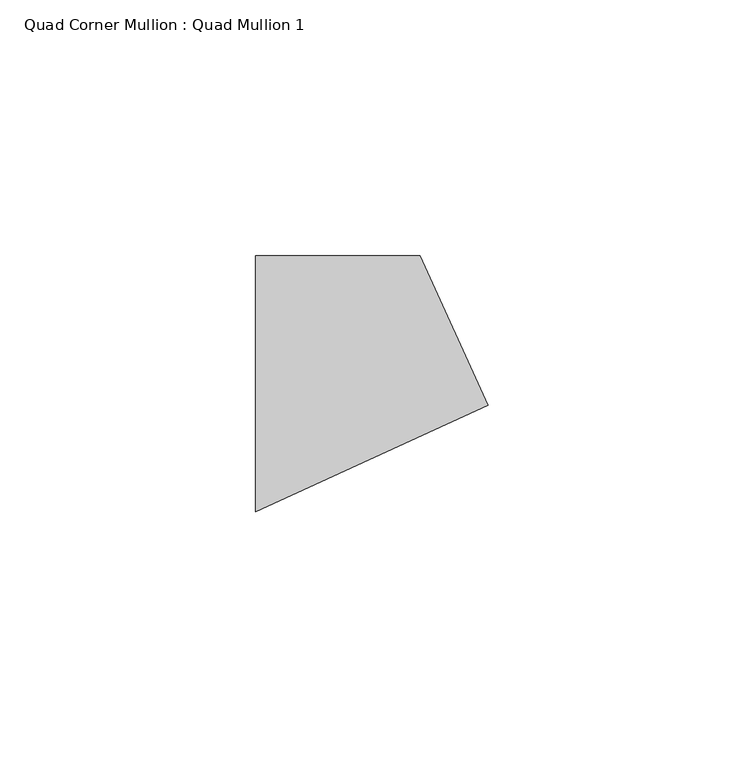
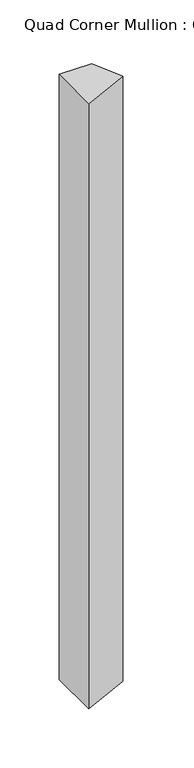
"""IFC4 building model written with IfcOpenShell, lengths in millimetres: member geometry, Quad Corner Mullion : Quad Mullion 1."""

from ifc_helpers import new_model, si_unit, frame, origin, place, context, project, spatial, polyline, outline, extrude, source, transform, mapped, element, save


def quad_corner_mullion_quad_mullion_1_03786224(model_context):
    return source(origin(), model_context, "Body", "SweptSolid", [
        extrude(outline(polyline([(29.4125559, -4.1926582), (-16.0523154, -25.0), (-16.0523154, 25.0), (16.0523154, 25.0), (29.4125559, -4.1926582)])), frame((0.0, 0.0, -626.0761699), z_axis=(0.0, 0.0, 1.0), x_axis=(1.0, 0.0, 0.0)), (0.0, 0.0, 1.0), 626.0761699),
    ])


if __name__ == "__main__":
    model = new_model("IFC4")
    model_context = context("Model", 3, world=origin())
    ifc_project = project(units=[si_unit("LENGTHUNIT", "METRE", prefix="MILLI")], contexts=[model_context])
    site = spatial("IfcSite", under=ifc_project)
    building = spatial("IfcBuilding", under=site)
    placement = place(None, origin())
    quad_corner_mullion_quad_mullion_1_shape = quad_corner_mullion_quad_mullion_1_03786224(model_context)
    element("IfcMember", 1, ObjectType="Quad Corner Mullion : Quad Mullion 1", at=placement, inside=building, context=model_context, shape_type="MappedRepresentation", body=[
        mapped(quad_corner_mullion_quad_mullion_1_shape, transform((0.0, 0.0, 0.0), x_axis=(1.0, 0.0, 0.0), y_axis=(0.0, 1.0, 0.0), z_axis=(0.0, 0.0, 1.0))),
    ])
    save(model, "model.ifc")
